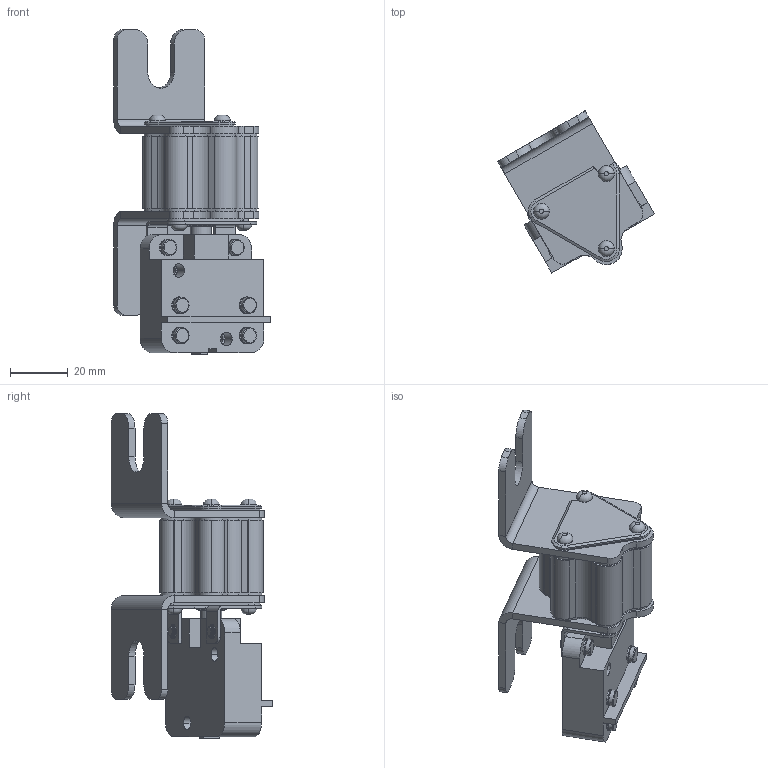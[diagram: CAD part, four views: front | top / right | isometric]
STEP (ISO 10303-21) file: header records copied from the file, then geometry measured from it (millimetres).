
FILE_DESCRIPTION (( 'STEP AP214' ), '1' );
FILE_NAME ('砎槼隰譇膻蠈錪 珫57-34271-XXXA-XXXX-忡曖.STEP', '2023-05-11T11:28:17', ( '' ), ( '' ), 'SwSTEP 2.0', 'SolidWorks 2018', '' );
FILE_SCHEMA (( 'AUTOMOTIVE_DESIGN' ));
Length unit declared in the file: millimetre
Products named in the file (1): 砎槼隰譇膻蠈錪 珫57-34271-XXXA-XXXX-忡曖
Bounding box: 54.31 x 56.07 x 112.5 mm (x, y, z)
Volume: 62395.1 mm3; surface area: 27458.1 mm2
Topology: 1 solids, 20 shells, 957 faces, 2358 edges, 1473 vertices
Faces by surface type: cylinder 422, plane 395, torus 70, cone 52, bspline 18
Entity records: 48565 total; most frequent: CARTESIAN_POINT 15559, DIRECTION 4790, ORIENTED_EDGE 4692, EDGE_CURVE 2346, AXIS2_PLACEMENT_3D 1821, VERTEX_POINT 1473, LINE 1148, VECTOR 1148
